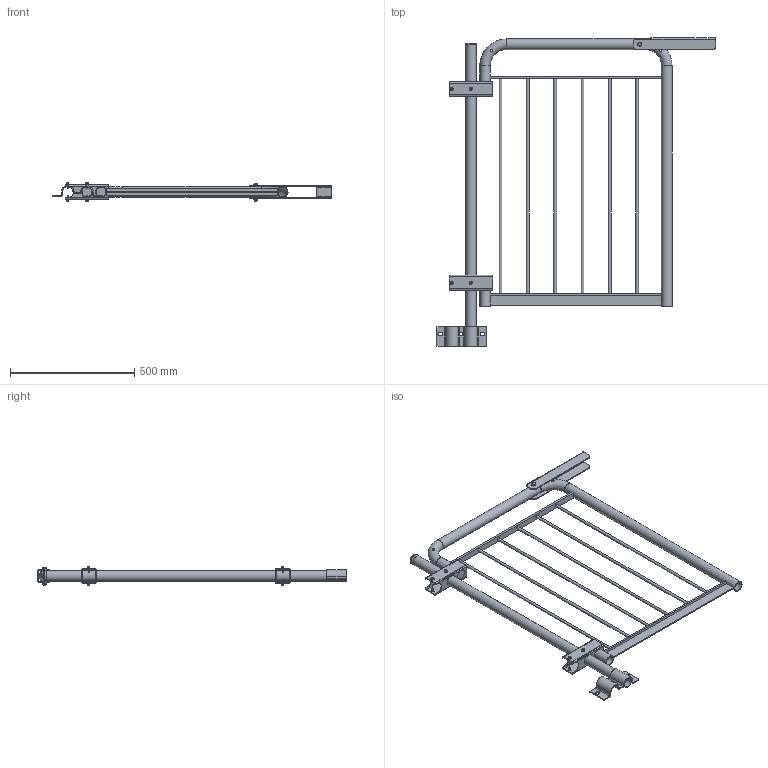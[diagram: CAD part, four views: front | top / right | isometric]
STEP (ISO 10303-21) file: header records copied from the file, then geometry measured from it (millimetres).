
FILE_DESCRIPTION((''),'2;1');
FILE_NAME('S:\Användarkataloger\AndreasA\Mina Inventor filer\Räcken\STEP\grind_bos_sido_850.stp','2010-09-07T14:04:22',('AndreasA'),(''),'Autodesk Inventor 2011','Autodesk Inventor 2011','');
FILE_SCHEMA(('AUTOMOTIVE_DESIGN { 1 0 10303 214 1 1 1 1 }'));
Length unit declared in the file: millimetre
Products named in the file (16): grind_bos_sido_850; stolpe_grind_1216; ändavslutare_42,4x2; gångjärn_grind; grindbåge_bos_850; rör_grindbåge_bos_850; galleri_grindbåge_850; pls_grindbåge_850; rör_grindbåge_bos_122; låsbygel_grind; fäste_r2; Bolted Connection; SS 3576 8; ISO 4014 M8 x 65; ISO 4032 M8; Hex Flange Head Tapping Screw - Type T - Metric M6x1 x 16
Assembly tree (24 placements, depth 3):
  grind_bos_sido_850
    stolpe_grind_1216
    ändavslutare_42,4x2
    gångjärn_grind  x2
    grindbåge_bos_850
      rör_grindbåge_bos_850
      galleri_grindbåge_850
      pls_grindbåge_850
      rör_grindbåge_bos_122
    låsbygel_grind
    fäste_r2
    Bolted Connection
      SS 3576 8  x2
      ISO 4014 M8 x 65
      ISO 4032 M8
    Hex Flange Head Tapping Screw - Type T - Metric M6x1 x 16  x8
Bounding box: 1122.7 x 1243 x 73.4 mm (x, y, z)
Volume: 2187219.9 mm3; surface area: 1432258.6 mm2
Topology: 22 solids, 22 shells, 409 faces, 947 edges, 591 vertices
Faces by surface type: plane 199, cylinder 108, cone 75, torus 21, bspline 6
Full cylindrical faces by diameter (mm): 6 x8, 6.647 x1, 7 x8, 8 x1, 8.4 x2, 10 x8, 11 x6, 11.63 x1, 14.5 x1, 16 x2, 38.4 x6, 42.4 x6, 45 x6
Entity records: 7856 total; most frequent: CARTESIAN_POINT 2089, DIRECTION 1146, ORIENTED_EDGE 1000, EDGE_CURVE 500, AXIS2_PLACEMENT_3D 445, VERTEX_POINT 350, EDGE_LOOP 350, VECTOR 256
